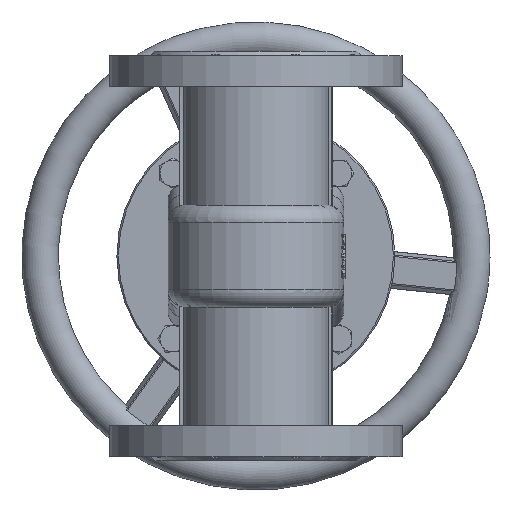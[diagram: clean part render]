
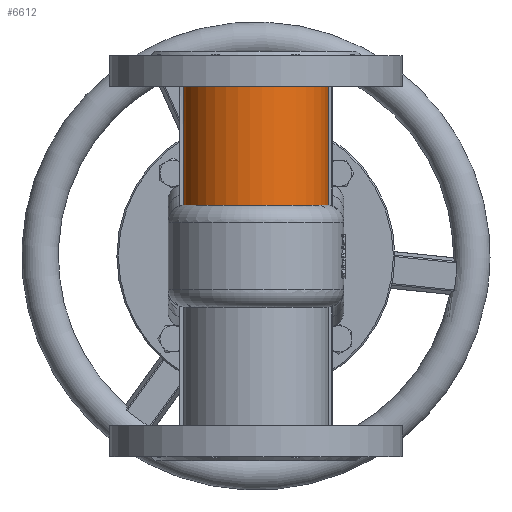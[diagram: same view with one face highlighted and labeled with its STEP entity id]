
A CAD part, front view. The second image highlights one B-rep face of the part: STEP entity #6612.
In plain terms, the highlighted cylindrical face has radius 50 mm (diameter 100 mm), a partial arc.
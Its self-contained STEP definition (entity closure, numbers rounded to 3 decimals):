
#6612=ADVANCED_FACE('',(#14566),#14568,.T.);
#14566=FACE_BOUND('',#14567,.T.);
#14567=EDGE_LOOP('',(#19884,#19885,#19886,#19887,#19888,#19889,#19890,#19891));
#14568=CYLINDRICAL_SURFACE('',#14569,50.);
#14569=AXIS2_PLACEMENT_3D('',#14570,#14571,#14572);
#14570=CARTESIAN_POINT('',(0.,0.,85.));
#14571=DIRECTION('',(0.,0.,1.));
#14572=DIRECTION('',(1.,0.,0.));
#19884=ORIENTED_EDGE('',*,*,#22618,.F.);
#19885=ORIENTED_EDGE('',*,*,#22610,.T.);
#19886=ORIENTED_EDGE('',*,*,#22619,.T.);
#19887=ORIENTED_EDGE('',*,*,#22608,.T.);
#19888=ORIENTED_EDGE('',*,*,#22345,.F.);
#19889=ORIENTED_EDGE('',*,*,#22617,.F.);
#19890=ORIENTED_EDGE('',*,*,#22620,.F.);
#19891=ORIENTED_EDGE('',*,*,#22615,.F.);
#22345=EDGE_CURVE('',#25588,#25578,#25590,.T.);
#22608=EDGE_CURVE('',#26017,#25578,#26018,.T.);
#22610=EDGE_CURVE('',#26014,#26019,#26021,.T.);
#22615=EDGE_CURVE('',#26026,#26028,#26029,.T.);
#22617=EDGE_CURVE('',#26030,#25588,#26032,.T.);
#22618=EDGE_CURVE('',#26014,#26026,#26033,.T.);
#22619=EDGE_CURVE('',#26019,#26017,#26034,.T.);
#22620=EDGE_CURVE('',#26028,#26030,#26035,.T.);
#25578=VERTEX_POINT('',#45474);
#25588=VERTEX_POINT('',#45599);
#25590=CIRCLE('',#45630,50.);
#26014=VERTEX_POINT('',#47599);
#26017=VERTEX_POINT('',#47606);
#26018=LINE('',#47607,#47608);
#26019=VERTEX_POINT('',#47610);
#26021=LINE('',#47614,#47615);
#26026=VERTEX_POINT('',#47629);
#26028=VERTEX_POINT('',#47633);
#26029=LINE('',#47634,#47635);
#26030=VERTEX_POINT('',#47637);
#26032=LINE('',#47641,#47642);
#26033=CIRCLE('',#47644,50.);
#26034=LINE('',#47648,#47649);
#26035=LINE('',#47651,#47652);
#45474=CARTESIAN_POINT('',(-49.434,-7.5,34.832));
#45599=CARTESIAN_POINT('',(49.434,-7.5,34.832));
#45630=AXIS2_PLACEMENT_3D('',#45631,#45632,#45633);
#45631=CARTESIAN_POINT('',(0.,0.,34.832));
#45632=DIRECTION('',(0.,0.,-1.));
#45633=DIRECTION('',(0.989,-0.15,0.));
#47599=CARTESIAN_POINT('',(-49.434,-7.5,116.));
#47606=CARTESIAN_POINT('',(-49.434,-5.357,35.));
#47607=CARTESIAN_POINT('',(-49.434,-7.5,35.));
#47608=VECTOR('',#47609,1.);
#47609=DIRECTION('',(0.,0.,-1.));
#47610=CARTESIAN_POINT('',(-49.434,-5.,80.249));
#47614=CARTESIAN_POINT('',(-49.434,-7.5,116.));
#47615=VECTOR('',#47616,1.);
#47616=DIRECTION('',(0.,0.,-1.));
#47629=CARTESIAN_POINT('',(49.434,-7.5,116.));
#47633=CARTESIAN_POINT('',(49.434,-7.5,80.249));
#47634=CARTESIAN_POINT('',(49.434,-7.5,116.));
#47635=VECTOR('',#47636,1.);
#47636=DIRECTION('',(0.,0.,-1.));
#47637=CARTESIAN_POINT('',(49.434,-7.5,35.));
#47641=CARTESIAN_POINT('',(49.434,-7.5,35.));
#47642=VECTOR('',#47643,1.);
#47643=DIRECTION('',(0.,0.,-1.));
#47644=AXIS2_PLACEMENT_3D('',#47645,#47646,#47647);
#47645=CARTESIAN_POINT('',(0.,0.,116.));
#47646=DIRECTION('',(0.,0.,1.));
#47647=DIRECTION('',(-0.989,-0.15,0.));
#47648=CARTESIAN_POINT('',(-49.434,-7.5,80.249));
#47649=VECTOR('',#47650,1.);
#47650=DIRECTION('',(0.,0.,-1.));
#47651=CARTESIAN_POINT('',(49.434,-7.5,80.249));
#47652=VECTOR('',#47653,1.);
#47653=DIRECTION('',(0.,0.,-1.));
